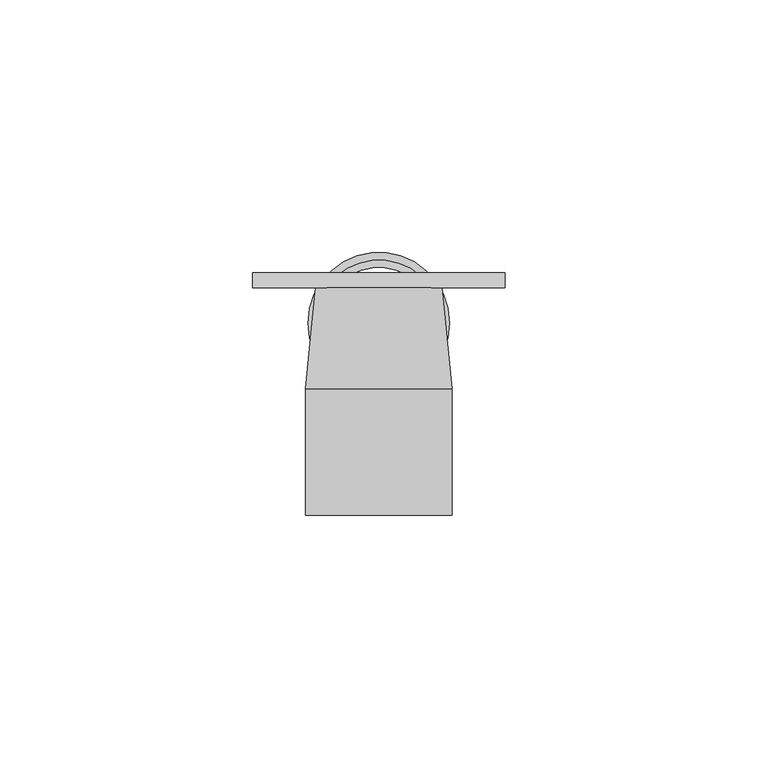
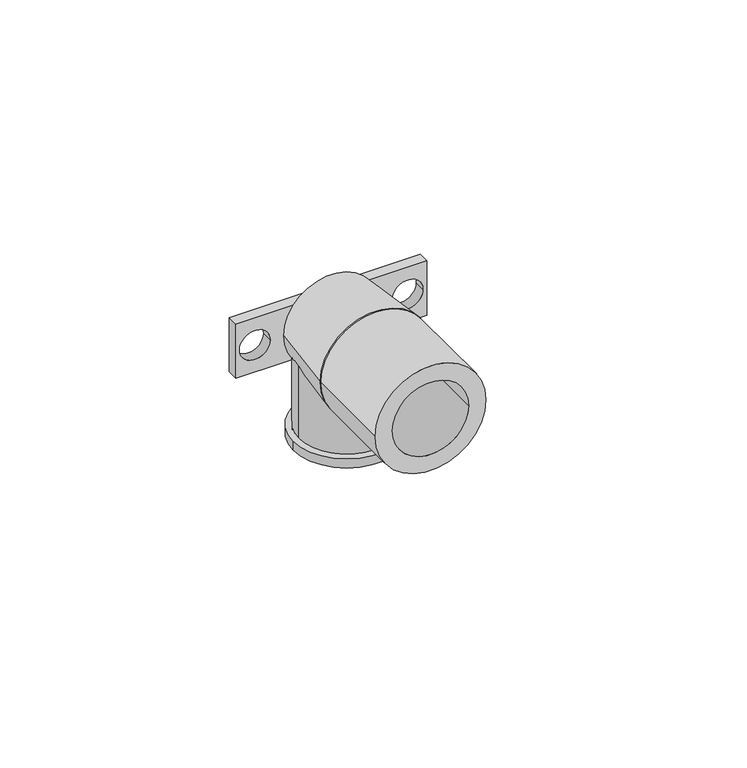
"""IFC4 building model written with IfcOpenShell, lengths in millimetres: pipe fitting geometry, БИР ПЕКС_НПР_Водорозетка : Водорозетка 3/4''x25."""

import ifcopenshell
import ifcopenshell.guid

model = None  # the IFC model being written
_history = None  # IfcOwnerHistory: only IFC2X3 demands one
_inside = {}  # id of a spatial element -> (the spatial element, [elements in it])
_under = {}  # id of a project, library or spatial element -> (it, [spatial elements below it])
_declared = {}  # id of a project -> (the project, [libraries it declares])
_typed = {}  # id of a type object -> (the type object, [elements of that type])
_made_of = {}  # id of a material, layer set ... -> (it, [elements and type objects made of it])


def new_model(schema):
    """Start an empty IFC model of exactly this schema.

    Asked for "IFC4X3", IfcOpenShell would pick the latest addendum, in which some entities
    have other attributes; the version numbers below select the first issue.
    IFC2X3 requires an IfcOwnerHistory on every rooted entity: one is made here for all.
    """
    global model, _history
    if schema == "IFC4X3":
        model = ifcopenshell.file(schema_version=(4, 3, 0, 0))
    else:
        model = ifcopenshell.file(schema=schema)
    _inside.clear()
    _under.clear()
    _declared.clear()
    _typed.clear()
    _made_of.clear()
    _history = None
    if model.schema == "IFC2X3":
        org = make("IfcOrganization", Name="unknown")
        user = make(
            "IfcPersonAndOrganization",
            ThePerson=make("IfcPerson", FamilyName="unknown"),
            TheOrganization=org,
        )
        app = make(
            "IfcApplication",
            ApplicationDeveloper=org,
            Version="unknown",
            ApplicationFullName="unknown",
            ApplicationIdentifier="unknown",
        )
        _history = make(
            "IfcOwnerHistory",
            OwningUser=user,
            OwningApplication=app,
            ChangeAction="ADDED",
            CreationDate=0,
        )
    return model


def make(cls, **values):
    """One entity of the class cls with the attributes given. An attribute that is None is left unset."""
    return model.create_entity(
        cls, **{name: value for name, value in values.items() if value is not None}
    )


def rooted(cls, **values):
    """An entity with a GlobalId (a new one), such as an element, a storey or a relation."""
    return make(cls, GlobalId=ifcopenshell.guid.new(), OwnerHistory=_history, **values)


def si_unit(unit_type, name, prefix=None):
    """IfcSIUnit, for example si_unit("LENGTHUNIT", "METRE", prefix="MILLI")."""
    return make("IfcSIUnit", UnitType=unit_type, Prefix=prefix, Name=name)


def assignment(units):
    """IfcUnitAssignment: the units of a project."""
    return None if units is None else make("IfcUnitAssignment", Units=units)


def point(xyz):
    """IfcCartesianPoint."""
    return None if xyz is None else make("IfcCartesianPoint", Coordinates=xyz)


def direction(xyz):
    """IfcDirection."""
    return None if xyz is None else make("IfcDirection", DirectionRatios=xyz)


def frame(location, z_axis=None, x_axis=None):
    """IfcAxis2Placement3D, a coordinate frame: its origin and axes. An axis left out is left unset."""
    return make(
        "IfcAxis2Placement3D",
        Location=point(location),
        Axis=direction(z_axis),
        RefDirection=direction(x_axis),
    )


def frame_2d(location, x_axis=None):
    """IfcAxis2Placement2D, a coordinate frame in the plane: its origin and x axis."""
    return make(
        "IfcAxis2Placement2D", Location=point(location), RefDirection=direction(x_axis)
    )


def origin():
    """The frame at (0, 0, 0) with its axes left unset."""
    return frame((0.0, 0.0, 0.0))


def origin_2d():
    """The frame at (0, 0) in the plane with its x axis left unset."""
    return frame_2d((0.0, 0.0))


def place(relative_to, where):
    """IfcLocalPlacement: puts the frame where relative to a parent placement (None: the world)."""
    return make(
        "IfcLocalPlacement", PlacementRelTo=relative_to, RelativePlacement=where
    )


def context(
    kind, dimensions, precision=None, world=None, true_north=None, identifier=None
):
    """IfcGeometricRepresentationContext, for example the 3D "Model" context."""
    return make(
        "IfcGeometricRepresentationContext",
        ContextIdentifier=identifier,
        ContextType=kind,
        CoordinateSpaceDimension=dimensions,
        Precision=precision,
        WorldCoordinateSystem=world,
        TrueNorth=true_north,
    )


def project(units=None, contexts=None):
    """IfcProject with its units and contexts."""
    return rooted(
        "IfcProject",
        Name="project",
        RepresentationContexts=contexts,
        UnitsInContext=assignment(units),
    )


def spatial(cls, under=None, at=None, **own):
    """A site, building, storey or space (cls), placed at a placement, below another one or the project."""
    s = rooted(cls, ObjectPlacement=at, **own)
    if under is not None:
        _under.setdefault(under.id(), (under, []))[1].append(s)
    return s


def polyline(points):
    """IfcPolyline through the points."""
    return make("IfcPolyline", Points=[point(p) for p in points])


def circle_curve(where, radius):
    """IfcCircle in the frame where."""
    return make("IfcCircle", Position=where, Radius=radius)


def trimmed(basis, trim1, trim2, sense, master):
    """IfcTrimmedCurve: the piece of a basis curve between two trims."""
    return make(
        "IfcTrimmedCurve",
        BasisCurve=basis,
        Trim1=trim1,
        Trim2=trim2,
        SenseAgreement=sense,
        MasterRepresentation=master,
    )


def segment(curve, same_sense, transition):
    """IfcCompositeCurveSegment."""
    return make(
        "IfcCompositeCurveSegment",
        Transition=transition,
        SameSense=same_sense,
        ParentCurve=curve,
    )


def composite_curve(segments, self_intersect=None):
    """IfcCompositeCurve: segments joined end to end."""
    return make("IfcCompositeCurve", Segments=segments, SelfIntersect=self_intersect)


def outline(outer, holes=None, kind="AREA"):
    """IfcArbitraryClosedProfileDef: a profile drawn as a closed curve; with holes, ...WithVoids."""
    if holes is None:
        return make("IfcArbitraryClosedProfileDef", ProfileType=kind, OuterCurve=outer)
    return make(
        "IfcArbitraryProfileDefWithVoids",
        ProfileType=kind,
        OuterCurve=outer,
        InnerCurves=holes,
    )


def extrude(swept, where, along, depth):
    """IfcExtrudedAreaSolid: the profile swept, set in the frame where, extruded along a direction by depth."""
    return make(
        "IfcExtrudedAreaSolid",
        SweptArea=swept,
        Position=where,
        ExtrudedDirection=direction(along),
        Depth=depth,
    )


def shape(context_of_items, identifier, shape_type, items):
    """IfcShapeRepresentation: the items that make up one representation, for example the "Body"."""
    return make(
        "IfcShapeRepresentation",
        ContextOfItems=context_of_items,
        RepresentationIdentifier=identifier,
        RepresentationType=shape_type,
        Items=items,
    )


def source(mapping_origin, context_of_items, identifier, shape_type, items):
    """IfcRepresentationMap: a shape defined once, which mapped items show again and again."""
    return make(
        "IfcRepresentationMap",
        MappingOrigin=mapping_origin,
        MappedRepresentation=shape(context_of_items, identifier, shape_type, items),
    )


def transform(
    local_origin,
    x_axis=None,
    y_axis=None,
    z_axis=None,
    scale=None,
    scale2=None,
    scale3=None,
    uniform=True,
):
    """IfcCartesianTransformationOperator3D, or its non-uniform kind. x_axis, y_axis, z_axis: its Axis1, 2, 3."""
    if uniform:
        return make(
            "IfcCartesianTransformationOperator3D",
            Axis1=direction(x_axis),
            Axis2=direction(y_axis),
            LocalOrigin=point(local_origin),
            Scale=scale,
            Axis3=direction(z_axis),
        )
    return make(
        "IfcCartesianTransformationOperator3DnonUniform",
        Axis1=direction(x_axis),
        Axis2=direction(y_axis),
        LocalOrigin=point(local_origin),
        Scale=scale,
        Axis3=direction(z_axis),
        Scale2=scale2,
        Scale3=scale3,
    )


def mapped(mapping_source, mapping_target):
    """IfcMappedItem: shows the shape of a source again, moved by a transform."""
    return make(
        "IfcMappedItem", MappingSource=mapping_source, MappingTarget=mapping_target
    )


def made_of(thing, what):
    """Note that an element or type object is made of a material, layer set ...; save() writes the relation."""
    if what is not None:
        _made_of.setdefault(what.id(), (what, []))[1].append(thing)
    return thing


def element(
    cls,
    number,
    at=None,
    inside=None,
    cuts=None,
    type_object=None,
    material=None,
    context=None,
    identifier="Body",
    shape_type=None,
    held_by="IfcProductDefinitionShape",
    body=None,
    shapes=None,
    **own,
):
    """One element of the class cls, such as IfcWall. Its Tag is "e" and its number.

    at: its placement. inside: the storey or other place that contains it. cuts: it is an
    opening in that element (IfcRelVoidsElement). A single representation is given by context,
    identifier, shape_type and body (its items); several are given by shapes. held_by: the class
    of the entity that holds the representations. save() writes the other relations.
    """
    e = rooted(cls, Tag="e%d" % number, ObjectPlacement=at, **own)
    if body is not None:
        shapes = [shape(context, identifier, shape_type, body)]
    if shapes is not None:
        e.Representation = make(held_by, Representations=shapes)
    if inside is not None:
        _inside.setdefault(inside.id(), (inside, []))[1].append(e)
    if cuts is not None:
        rooted(
            "IfcRelVoidsElement", RelatingBuildingElement=cuts, RelatedOpeningElement=e
        )
    if type_object is not None:
        _typed.setdefault(type_object.id(), (type_object, []))[1].append(e)
    return made_of(e, material)


def aggregate(whole, parts):
    """IfcRelAggregates: a whole, such as a stair, and the parts it consists of."""
    return rooted("IfcRelAggregates", RelatingObject=whole, RelatedObjects=parts)


def save(model, path):
    """Write the relations noted so far, then the file.

    IfcRelAggregates (storeys below a building ...), IfcRelContainedInSpatialStructure (elements
    in a storey), IfcRelDefinesByType, IfcRelAssociatesMaterial and IfcRelDeclares: one each for
    every whole, place, type object, material and project.
    """
    for whole, parts in _under.values():
        aggregate(whole, parts)
    for where, things in _inside.values():
        rooted(
            "IfcRelContainedInSpatialStructure",
            RelatedElements=things,
            RelatingStructure=where,
        )
    for kind, things in _typed.values():
        rooted("IfcRelDefinesByType", RelatedObjects=things, RelatingType=kind)
    for what, things in _made_of.values():
        rooted("IfcRelAssociatesMaterial", RelatedObjects=things, RelatingMaterial=what)
    for by, libraries in _declared.values():
        rooted("IfcRelDeclares", RelatingContext=by, RelatedDefinitions=libraries)
    model.write(path)


def plane_surface(at):
    """IfcPlane: the flat surface through the origin of the frame at, square to its z axis."""
    return make("IfcPlane", Position=at)


def revolved_surface(curve, axis_point, axis_direction):
    """IfcSurfaceOfRevolution: the curve turned about the line through axis_point along axis_direction."""
    return make(
        "IfcSurfaceOfRevolution",
        SweptCurve=make("IfcArbitraryOpenProfileDef", ProfileType="CURVE", Curve=curve),
        AxisPosition=make("IfcAxis1Placement", Location=point(axis_point), Axis=direction(axis_direction)),
    )


def advanced_brep(points, edges, surfaces, faces):
    """IfcAdvancedBrep: a solid bounded by faces that lie on surfaces and meet in shared edges.

    An edge is (start, end): straight between two places in points (the first is 0);
    or (start, end, curve); or (start, end, curve, False) where it runs against its curve.
    A face is (place in surfaces, loops), or (place, loops, False) where it looks against
    its surface's normal. A loop lists edges by number (the first is 1), with a minus sign
    where the edge is run from its end to its start. The first loop is the outer one.
    """
    corners = [point(p) for p in points]
    vertices = [make("IfcVertexPoint", VertexGeometry=c) for c in corners]
    made = []
    for start, end, *more in edges:
        made.append(
            make(
                "IfcEdgeCurve",
                EdgeStart=vertices[start],
                EdgeEnd=vertices[end],
                EdgeGeometry=more[0] if more else make("IfcPolyline", Points=[corners[start], corners[end]]),
                SameSense=more[1] if len(more) > 1 else True,
            )
        )
    hull = []
    for where, loops, *sense in faces:
        bounds = []
        for j, loop in enumerate(loops):
            ring = [make("IfcOrientedEdge", EdgeElement=made[abs(k) - 1], Orientation=k > 0) for k in loop]
            bounds.append(
                make(
                    "IfcFaceOuterBound" if j == 0 else "IfcFaceBound",
                    Bound=make("IfcEdgeLoop", EdgeList=ring),
                    Orientation=True,
                )
            )
        hull.append(make("IfcAdvancedFace", Bounds=bounds, FaceSurface=surfaces[where], SameSense=sense[0] if sense else True))
    return make("IfcAdvancedBrep", Outer=make("IfcClosedShell", CfsFaces=hull))


def pipe_fitting_f0777ca7(model_context):
    return source(origin(), model_context, "Body", "SolidModel", [
        advanced_brep(
        [(-12.5, -3.0, 0.0), (12.5, -3.0, 0.0), (-14.5, -23.0, 0.0), (14.5, -23.0, 0.0)],
        [
            (0, 1, circle_curve(frame((0.0, -3.0, 0.0), z_axis=(0.0, 1.0, 0.0), x_axis=(-1.0, 0.0, 0.0)), 12.5)),
            (1, 0, circle_curve(frame((0.0, -3.0, 0.0), z_axis=(0.0, 1.0, 0.0), x_axis=(1.0, 0.0, 0.0)), 12.5)),
            (2, 3, circle_curve(frame((0.0, -23.0, 0.0), z_axis=(0.0, -1.0, 0.0), x_axis=(1.0, 0.0, 0.0)), 14.5)),
            (3, 2, circle_curve(frame((0.0, -23.0, 0.0), z_axis=(0.0, -1.0, 0.0), x_axis=(-1.0, 0.0, 0.0)), 14.5)),
            (2, 0),
            (1, 3),
        ],
        [
            plane_surface(frame((0.0, -3.0, 0.0), z_axis=(0.0, 1.0, 0.0), x_axis=(0.0, 0.0, -1.0))),
            plane_surface(frame((0.0, -23.0, 0.0), z_axis=(0.0, -1.0, 0.0), x_axis=(0.0, 0.0, -1.0))),
            revolved_surface(polyline([(12.5, -2.999999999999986, 0.0), (14.5, -23.0, 0.0)]), (0.0, 122.0, 0.0), (0.0, -1.0, 0.0)),
            revolved_surface(polyline([(-12.5, -2.999999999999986, 0.0), (-14.5, -23.0, 0.0)]), (0.0, 122.0, 0.0), (0.0, -1.0, 0.0)),
        ],
        [
            (0, [[1, 2]]),
            (1, [[3, 4]]),
            (2, [[-3, 5, -2, 6]]),
            (3, [[-4, -6, -1, -5]]),
        ],
    ),
        extrude(outline(composite_curve([segment(trimmed(circle_curve(origin_2d(), 14.5), [point((0.0, -14.5))], [point((0.0, 14.5))], False, "CARTESIAN"), True, "CONTINUOUS"), segment(trimmed(circle_curve(origin_2d(), 14.5), [point((0.0, 14.5))], [point((0.0, -14.5))], False, "CARTESIAN"), True, "CONTINUOUS")], self_intersect=False), holes=[composite_curve([segment(trimmed(circle_curve(origin_2d(), 10.0), [point((0.0, -10.0))], [point((0.0, 10.0))], True, "CARTESIAN"), True, "CONTINUOUS"), segment(trimmed(circle_curve(origin_2d(), 10.0), [point((0.0, 10.0))], [point((0.0, -10.0))], True, "CARTESIAN"), True, "CONTINUOUS")], self_intersect=False)]), frame((0.0, -48.0, 0.0), z_axis=(0.0, 1.0, 0.0), x_axis=(0.0, 0.0, 1.0)), (0.0, 0.0, 1.0), 25.0),
        extrude(outline(composite_curve([segment(trimmed(circle_curve(frame_2d((0.0, -10.0)), 14.0), [point((-14.0, -10.0))], [point((14.0, -10.0))], False, "CARTESIAN"), True, "CONTINUOUS"), segment(trimmed(circle_curve(frame_2d((0.0, -10.0)), 14.0), [point((14.0, -10.0))], [point((-14.0, -10.0))], False, "CARTESIAN"), True, "CONTINUOUS")], self_intersect=False), holes=[composite_curve([segment(trimmed(circle_curve(frame_2d((0.0, -10.0)), 11.0), [point((-11.0, -10.0))], [point((11.0, -10.0))], True, "CARTESIAN"), True, "CONTINUOUS"), segment(trimmed(circle_curve(frame_2d((0.0, -10.0)), 11.0), [point((11.0, -10.0))], [point((-11.0, -10.0))], True, "CARTESIAN"), True, "CONTINUOUS")], self_intersect=False)]), frame((0.0, 0.0, -27.0), z_axis=(0.0, 0.0, 1.0), x_axis=(1.0, 0.0, 0.0)), (0.0, 0.0, 1.0), 2.5),
        extrude(outline(composite_curve([segment(trimmed(circle_curve(frame_2d((0.0, -10.0)), 12.5), [point((-12.5, -10.0))], [point((12.5, -10.0))], False, "CARTESIAN"), True, "CONTINUOUS"), segment(trimmed(circle_curve(frame_2d((0.0, -10.0)), 12.5), [point((12.5, -10.0))], [point((-12.5, -10.0))], False, "CARTESIAN"), True, "CONTINUOUS")], self_intersect=False), holes=[composite_curve([segment(trimmed(circle_curve(frame_2d((0.0, -10.0)), 11.0), [point((-11.0, -10.0))], [point((11.0, -10.0))], True, "CARTESIAN"), True, "CONTINUOUS"), segment(trimmed(circle_curve(frame_2d((0.0, -10.0)), 11.0), [point((11.0, -10.0))], [point((-11.0, -10.0))], True, "CARTESIAN"), True, "CONTINUOUS")], self_intersect=False)]), frame((0.0, 0.0, -27.0), z_axis=(0.0, 0.0, 1.0), x_axis=(1.0, 0.0, 0.0)), (0.0, 0.0, 1.0), 27.0),
        extrude(outline(polyline([(7.5, 25.0), (7.5, -25.0), (-7.5, -25.0), (-7.5, 25.0), (7.5, 25.0)]), holes=[composite_curve([segment(trimmed(circle_curve(frame_2d((0.0, -20.0)), 4.0), [point((0.0, -24.0))], [point((0.0, -16.0))], True, "CARTESIAN"), True, "CONTINUOUS"), segment(trimmed(circle_curve(frame_2d((0.0, -20.0)), 4.0), [point((0.0, -16.0))], [point((0.0, -24.0))], True, "CARTESIAN"), True, "CONTINUOUS")], self_intersect=False), composite_curve([segment(trimmed(circle_curve(frame_2d((0.0, 20.0)), 4.0), [point((0.0, 16.0))], [point((0.0, 24.0))], True, "CARTESIAN"), True, "CONTINUOUS"), segment(trimmed(circle_curve(frame_2d((0.0, 20.0)), 4.0), [point((0.0, 24.0))], [point((0.0, 16.0))], True, "CARTESIAN"), True, "CONTINUOUS")], self_intersect=False)]), frame((0.0, -3.0, 0.0), z_axis=(0.0, 1.0, 0.0), x_axis=(0.0, 0.0, 1.0)), (0.0, 0.0, 1.0), 3.0),
    ])


if __name__ == "__main__":
    model = new_model("IFC4")
    model_context = context("Model", 3, world=origin())
    ifc_project = project(units=[si_unit("LENGTHUNIT", "METRE", prefix="MILLI")], contexts=[model_context])
    site = spatial("IfcSite", under=ifc_project)
    building = spatial("IfcBuilding", under=site)
    placement = place(None, origin())
    pipe_fitting_shape = pipe_fitting_f0777ca7(model_context)
    element("IfcPipeFitting", 1, ObjectType="БИР ПЕКС_НПР_Водорозетка : Водорозетка 3/4''x25", at=placement, inside=building, context=model_context, shape_type="MappedRepresentation", body=[
        mapped(pipe_fitting_shape, transform((0.0, 0.0, 0.0), x_axis=(1.0, 0.0, 0.0), y_axis=(0.0, 1.0, 0.0), z_axis=(0.0, 0.0, 1.0))),
    ])
    save(model, "model.ifc")
